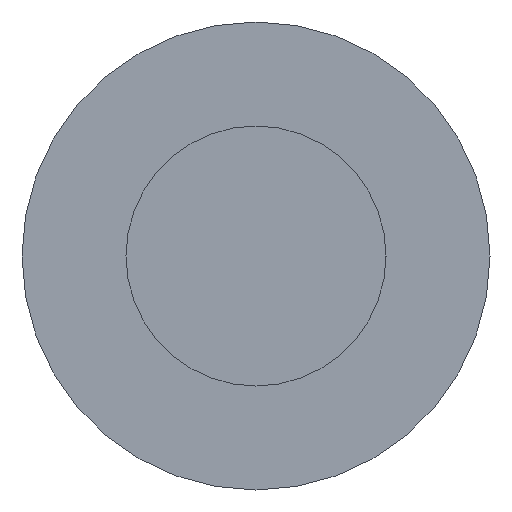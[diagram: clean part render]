
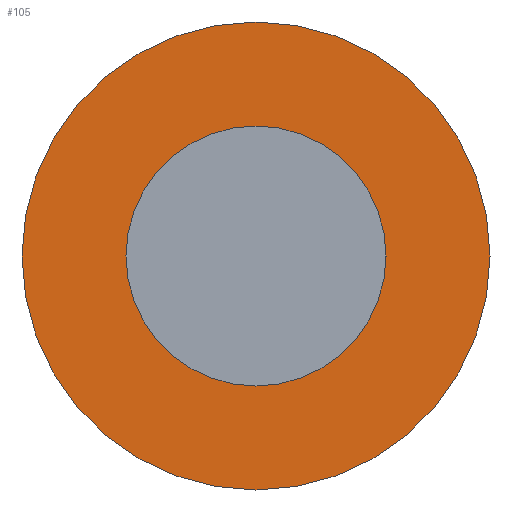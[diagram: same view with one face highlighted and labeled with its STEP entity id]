
A CAD part, left-side view. The second image highlights one B-rep face of the part: STEP entity #105.
In plain terms, the highlighted planar face has unit normal (-1, 0, 0).
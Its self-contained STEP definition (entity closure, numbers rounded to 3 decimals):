
#21 = EDGE_CURVE('',#22,#22,#24,.T.);
#22 = VERTEX_POINT('',#23);
#23 = CARTESIAN_POINT('',(3.8,0.,-2.25));
#24 = SURFACE_CURVE('',#25,(#30,#42),.PCURVE_S1.);
#25 = CIRCLE('',#26,2.25);
#26 = AXIS2_PLACEMENT_3D('',#27,#28,#29);
#27 = CARTESIAN_POINT('',(3.8,0.,0.));
#28 = DIRECTION('',(-1.,0.,0.));
#29 = DIRECTION('',(0.,0.,-1.));
#30 = PCURVE('',#31,#36);
#31 = CYLINDRICAL_SURFACE('',#32,2.25);
#32 = AXIS2_PLACEMENT_3D('',#33,#34,#35);
#33 = CARTESIAN_POINT('',(5.45,0.,0.));
#34 = DIRECTION('',(-1.,0.,0.));
#35 = DIRECTION('',(0.,0.,-1.));
#36 = DEFINITIONAL_REPRESENTATION('',(#37),#41);
#37 = LINE('',#38,#39);
#38 = CARTESIAN_POINT('',(0.,1.65));
#39 = VECTOR('',#40,1.);
#40 = DIRECTION('',(1.,0.));
#41 = ( GEOMETRIC_REPRESENTATION_CONTEXT(2) 
PARAMETRIC_REPRESENTATION_CONTEXT() REPRESENTATION_CONTEXT('2D SPACE',''
  ) );
#42 = PCURVE('',#43,#48);
#43 = PLANE('',#44);
#44 = AXIS2_PLACEMENT_3D('',#45,#46,#47);
#45 = CARTESIAN_POINT('',(3.8,0.,0.));
#46 = DIRECTION('',(-1.,0.,0.));
#47 = DIRECTION('',(0.,0.,-1.));
#48 = DEFINITIONAL_REPRESENTATION('',(#49),#53);
#49 = CIRCLE('',#50,2.25);
#50 = AXIS2_PLACEMENT_2D('',#51,#52);
#51 = CARTESIAN_POINT('',(0.,0.));
#52 = DIRECTION('',(1.,0.));
#53 = ( GEOMETRIC_REPRESENTATION_CONTEXT(2) 
PARAMETRIC_REPRESENTATION_CONTEXT() REPRESENTATION_CONTEXT('2D SPACE',''
  ) );
#105 = ADVANCED_FACE('',(#106,#109),#43,.T.);
#106 = FACE_BOUND('',#107,.T.);
#107 = EDGE_LOOP('',(#108));
#108 = ORIENTED_EDGE('',*,*,#21,.T.);
#109 = FACE_BOUND('',#110,.T.);
#110 = EDGE_LOOP('',(#111));
#111 = ORIENTED_EDGE('',*,*,#112,.F.);
#112 = EDGE_CURVE('',#113,#113,#115,.T.);
#113 = VERTEX_POINT('',#114);
#114 = CARTESIAN_POINT('',(3.8,0.,-1.25));
#115 = SURFACE_CURVE('',#116,(#121,#128),.PCURVE_S1.);
#116 = CIRCLE('',#117,1.25);
#117 = AXIS2_PLACEMENT_3D('',#118,#119,#120);
#118 = CARTESIAN_POINT('',(3.8,0.,0.));
#119 = DIRECTION('',(-1.,0.,0.));
#120 = DIRECTION('',(0.,0.,-1.));
#121 = PCURVE('',#43,#122);
#122 = DEFINITIONAL_REPRESENTATION('',(#123),#127);
#123 = CIRCLE('',#124,1.25);
#124 = AXIS2_PLACEMENT_2D('',#125,#126);
#125 = CARTESIAN_POINT('',(0.,0.));
#126 = DIRECTION('',(1.,0.));
#127 = ( GEOMETRIC_REPRESENTATION_CONTEXT(2) 
PARAMETRIC_REPRESENTATION_CONTEXT() REPRESENTATION_CONTEXT('2D SPACE',''
  ) );
#128 = PCURVE('',#129,#134);
#129 = CYLINDRICAL_SURFACE('',#130,1.25);
#130 = AXIS2_PLACEMENT_3D('',#131,#132,#133);
#131 = CARTESIAN_POINT('',(3.8,0.,0.));
#132 = DIRECTION('',(-1.,0.,0.));
#133 = DIRECTION('',(0.,0.,-1.));
#134 = DEFINITIONAL_REPRESENTATION('',(#135),#139);
#135 = LINE('',#136,#137);
#136 = CARTESIAN_POINT('',(0.,0.));
#137 = VECTOR('',#138,1.);
#138 = DIRECTION('',(1.,0.));
#139 = ( GEOMETRIC_REPRESENTATION_CONTEXT(2) 
PARAMETRIC_REPRESENTATION_CONTEXT() REPRESENTATION_CONTEXT('2D SPACE',''
  ) );
